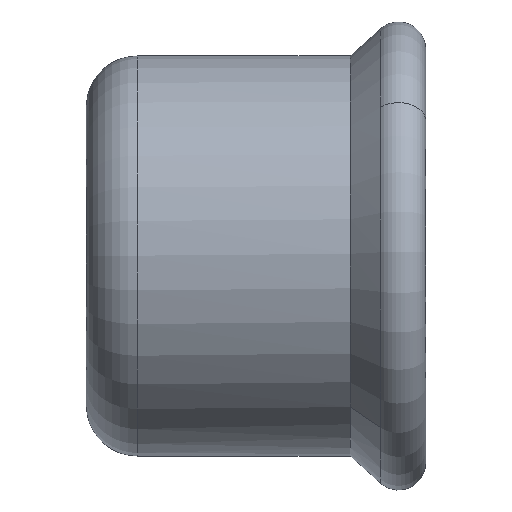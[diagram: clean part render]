
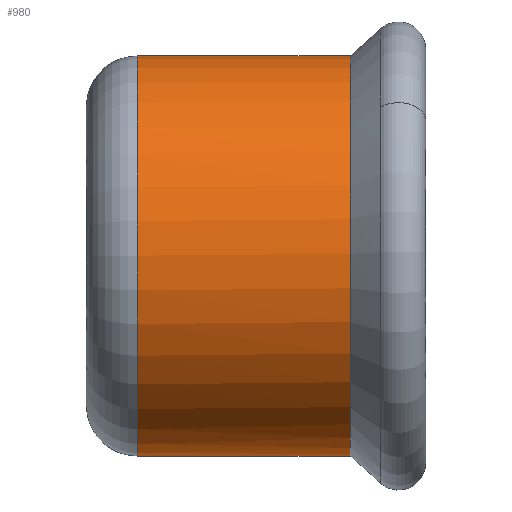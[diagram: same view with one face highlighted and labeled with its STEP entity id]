
A CAD part, top view. The second image highlights one B-rep face of the part: STEP entity #980.
In plain terms, the highlighted cylindrical face has radius 35.375 mm (diameter 70.75 mm), a partial arc.
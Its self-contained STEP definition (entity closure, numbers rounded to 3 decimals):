
#530=CARTESIAN_POINT('',(37.728,0.,0.));
#540=DIRECTION('',(-1.,0.,0.));
#550=DIRECTION('',(0.,1.,0.));
#560=AXIS2_PLACEMENT_3D('',#530,#540,#550);
#570=CYLINDRICAL_SURFACE('',#560,35.375);
#580=CARTESIAN_POINT('',(37.728,35.375,0.));
#590=DIRECTION('',(-1.,0.,0.));
#600=VECTOR('',#590,1.);
#610=LINE('',#580,#600);
#620=CARTESIAN_POINT('',(68.894,35.375,0.));
#630=VERTEX_POINT('',#620);
#640=CARTESIAN_POINT('',(31.228,35.375,0.));
#650=VERTEX_POINT('',#640);
#660=EDGE_CURVE('',#630,#650,#610,.T.);
#670=ORIENTED_EDGE('',*,*,#660,.T.);
#680=CARTESIAN_POINT('',(68.894,0.,
0.));
#690=DIRECTION('',(1.,0.,0.));
#700=DIRECTION('',(0.,0.757,
-0.654));
#710=AXIS2_PLACEMENT_3D('',#680,#690,#700);
#720=CIRCLE('',#710,35.375);
#730=CARTESIAN_POINT('',(68.894,-26.767,
23.128));
#740=VERTEX_POINT('',#730);
#750=EDGE_CURVE('',#630,#740,#720,.T.);
#760=ORIENTED_EDGE('',*,*,#750,.F.);
#770=CARTESIAN_POINT('',(68.894,-35.375,0.)
);
#780=VERTEX_POINT('',#770);
#790=EDGE_CURVE('',#740,#780,#720,.T.);
#800=ORIENTED_EDGE('',*,*,#790,.F.);
#810=CARTESIAN_POINT('',(37.728,-35.375,0.));
#820=DIRECTION('',(-1.,0.,0.));
#830=VECTOR('',#820,1.);
#840=LINE('',#810,#830);
#850=CARTESIAN_POINT('',(31.228,-35.375,0.));
#860=VERTEX_POINT('',#850);
#870=EDGE_CURVE('',#780,#860,#840,.T.);
#880=ORIENTED_EDGE('',*,*,#870,.F.);
#890=CARTESIAN_POINT('',(31.228,0.,0.));
#900=DIRECTION('',(-1.,0.,0.));
#910=DIRECTION('',(0.,1.,0.));
#920=AXIS2_PLACEMENT_3D('',#890,#900,#910);
#930=CIRCLE('',#920,35.375);
#940=EDGE_CURVE('',#860,#650,#930,.T.);
#950=ORIENTED_EDGE('',*,*,#940,.F.);
#960=EDGE_LOOP('',(#950,#880,#800,#760,#670));
#970=FACE_OUTER_BOUND('',#960,.T.);
#980=ADVANCED_FACE('',(#970),#570,.T.);
